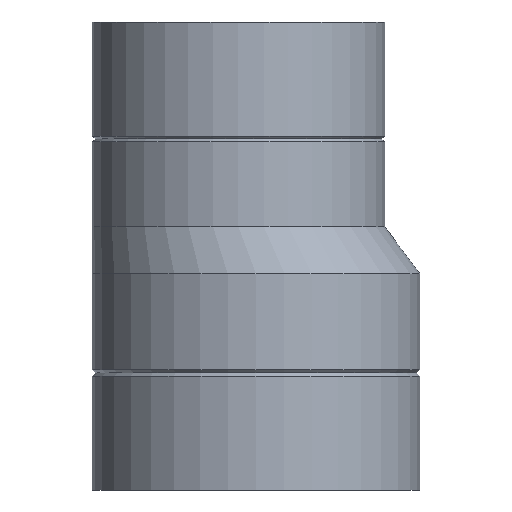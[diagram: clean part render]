
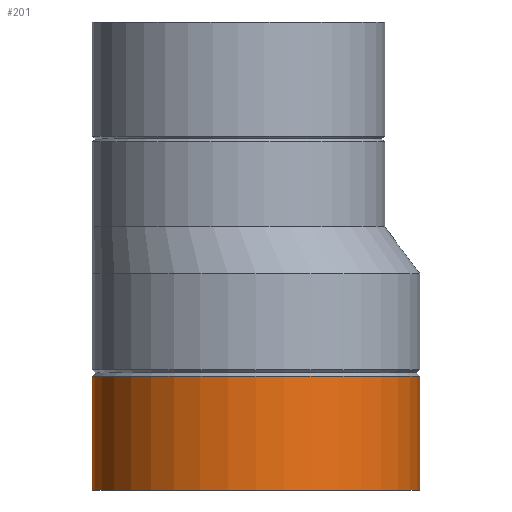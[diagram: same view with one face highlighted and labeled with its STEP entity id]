
A CAD part, front view. The second image highlights one B-rep face of the part: STEP entity #201.
In plain terms, the highlighted cylindrical face has radius 28 mm (diameter 56 mm), a full revolution.
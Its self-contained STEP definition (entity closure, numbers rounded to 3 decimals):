
#22=CYLINDRICAL_SURFACE($,#233,28.);
#32=FACE_BOUND($,#69,.T.);
#48=FACE_OUTER_BOUND($,#68,.T.);
#68=EDGE_LOOP($,(#163));
#69=EDGE_LOOP($,(#164));
#80=CIRCLE($,#216,28.);
#93=CIRCLE($,#234,28.);
#98=VERTEX_POINT($,#313);
#111=VERTEX_POINT($,#384);
#116=EDGE_CURVE($,#98,#98,#80,.T.);
#131=EDGE_CURVE($,#111,#111,#93,.T.);
#163=ORIENTED_EDGE($,*,*,#116,.T.);
#164=ORIENTED_EDGE($,*,*,#131,.F.);
#201=ADVANCED_FACE($,(#48,#32),#22,.T.);
#216=AXIS2_PLACEMENT_3D($,#314,#256,#257);
#233=AXIS2_PLACEMENT_3D($,#383,#290,#291);
#234=AXIS2_PLACEMENT_3D($,#385,#292,#293);
#256=DIRECTION('center_axis',(0.,0.,-1.));
#257=DIRECTION('ref_axis',(-1.,0.,0.));
#290=DIRECTION('center_axis',(0.,0.,1.));
#291=DIRECTION('ref_axis',(-1.,0.,0.));
#292=DIRECTION('center_axis',(0.,0.,-1.));
#293=DIRECTION('ref_axis',(-1.,0.,0.));
#313=CARTESIAN_POINT('',(-28.,0.,19.44));
#314=CARTESIAN_POINT('Origin',(0.,0.,19.44));
#383=CARTESIAN_POINT('Origin',(0.,0.,0.));
#384=CARTESIAN_POINT('',(28.,0.,0.));
#385=CARTESIAN_POINT('Origin',(0.,0.,0.));
